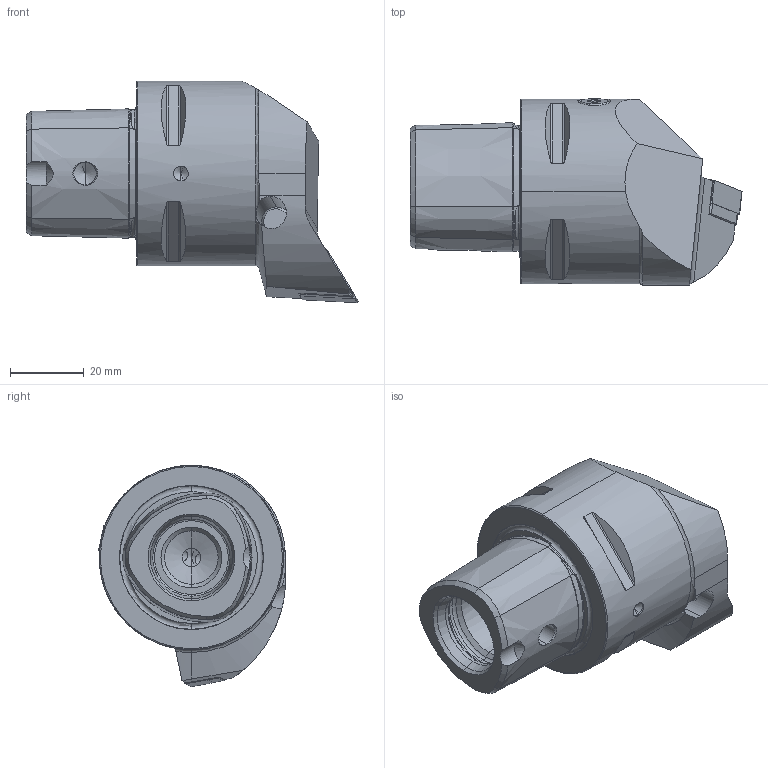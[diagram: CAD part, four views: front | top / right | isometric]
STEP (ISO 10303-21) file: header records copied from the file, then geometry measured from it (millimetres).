
FILE_DESCRIPTION (( 'STEP AP214' ), '1' );
FILE_NAME ('PS5.PDF.RJA.060-HP.STEP', '2020-09-11T12:03:36', ( '' ), ( '' ), 'SwSTEP 2.0', 'SolidWorks 2017', '' );
FILE_SCHEMA (( 'AUTOMOTIVE_DESIGN' ));
Length unit declared in the file: millimetre
Products named in the file (13): CHP-ER1.015.006_A; WCD-ER4.101.017_A; DIN 3771 - 13x1; WDF-ER2.101.003_A; CHP-ER1.015.006; WDF-ER3.101.000_A; DIN 7991 - M5x15; PS5-PDF.RJA.060-HP_B; CHP-ER1.008.014_A; WCD-ER1.101.000; PS5.PDF.RJA.060-HP; ISO 8752 2x8; DNMG150604
Assembly tree (12 placements, depth 3):
  PS5.PDF.RJA.060-HP
    PS5-PDF.RJA.060-HP_B
    ISO 8752 2x8
    CHP-ER1.008.014_A
    CHP-ER1.015.006
      CHP-ER1.015.006_A
      DIN 3771 - 13x1
      DIN 7991 - M5x15
    WDF-ER3.101.000_A
    WCD-ER4.101.017_A
    WDF-ER2.101.003_A
    WCD-ER1.101.000
    DNMG150604
Bounding box: 90.01 x 50.68 x 60.01 mm (x, y, z)
Volume: 97986 mm3; surface area: 24701.4 mm2
Topology: 11 solids, 11 shells, 451 faces, 1079 edges, 638 vertices
Faces by surface type: cone 137, plane 130, cylinder 118, torus 54, bspline 12
Entity records: 14742 total; most frequent: CARTESIAN_POINT 3973, DIRECTION 2157, ORIENTED_EDGE 2110, EDGE_CURVE 1055, AXIS2_PLACEMENT_3D 857, VERTEX_POINT 638, EDGE_LOOP 483, ADVANCED_FACE 451
